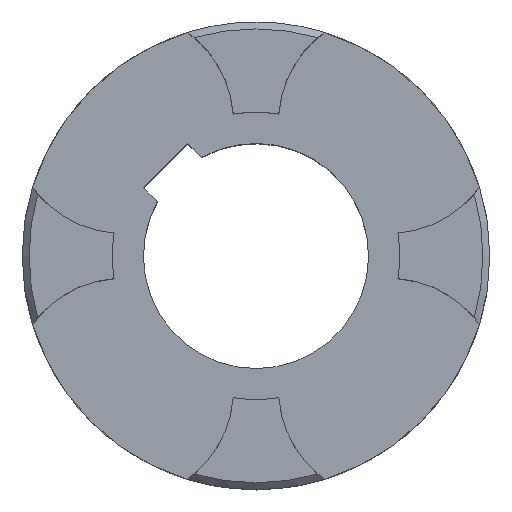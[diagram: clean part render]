
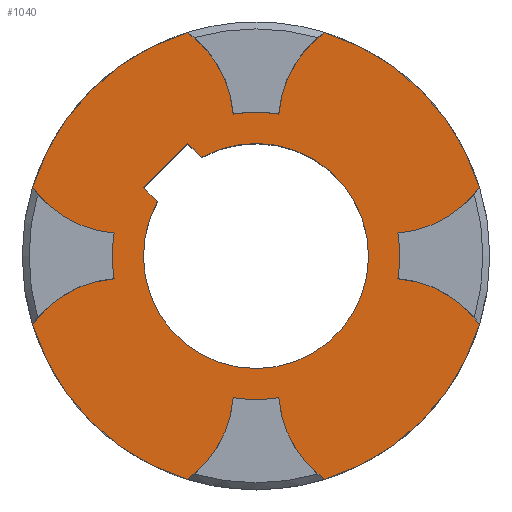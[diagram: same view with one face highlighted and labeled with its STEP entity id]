
A CAD part, top view. The second image highlights one B-rep face of the part: STEP entity #1040.
In plain terms, the highlighted planar face has unit normal (0, 0, 1).
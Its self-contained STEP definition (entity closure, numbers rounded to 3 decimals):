
#213=CARTESIAN_POINT('',(0.,0.,0.));
#214=DIRECTION('',(0.,0.,1.));
#215=DIRECTION('',(-0.987,0.159,0.));
#216=AXIS2_PLACEMENT_3D('',#213,#214,#215);
#248=CARTESIAN_POINT('',(0.,0.,0.));
#249=DIRECTION('',(0.,0.,1.));
#250=DIRECTION('',(0.987,-0.159,0.));
#251=AXIS2_PLACEMENT_3D('',#248,#249,#250);
#275=CARTESIAN_POINT('',(38.537,38.537,0.));
#276=DIRECTION('',(0.,0.,-1.));
#277=DIRECTION('',(0.811,-0.585,0.));
#278=AXIS2_PLACEMENT_3D('',#275,#276,#277);
#280=CARTESIAN_POINT('',(38.537,-38.537,0.));
#281=DIRECTION('',(0.,0.,-1.));
#282=DIRECTION('',(0.076,0.997,0.));
#283=AXIS2_PLACEMENT_3D('',#280,#281,#282);
#285=CARTESIAN_POINT('',(0.,0.,0.));
#286=DIRECTION('',(0.,0.,-1.));
#287=DIRECTION('',(0.956,-0.293,0.));
#288=AXIS2_PLACEMENT_3D('',#285,#286,#287);
#290=CARTESIAN_POINT('',(38.537,-38.537,0.));
#291=DIRECTION('',(0.,0.,-1.));
#292=DIRECTION('',(-0.585,-0.811,0.));
#293=AXIS2_PLACEMENT_3D('',#290,#291,#292);
#295=CARTESIAN_POINT('',(0.,0.,0.));
#296=DIRECTION('',(0.,0.,-1.));
#297=DIRECTION('',(0.159,-0.987,0.));
#298=AXIS2_PLACEMENT_3D('',#295,#296,#297);
#300=CARTESIAN_POINT('',(-38.537,-38.537,0.));
#301=DIRECTION('',(0.,0.,-1.));
#302=DIRECTION('',(0.997,-0.076,0.));
#303=AXIS2_PLACEMENT_3D('',#300,#301,#302);
#305=CARTESIAN_POINT('',(0.,0.,0.));
#306=DIRECTION('',(0.,0.,-1.));
#307=DIRECTION('',(-0.293,-0.956,0.));
#308=AXIS2_PLACEMENT_3D('',#305,#306,#307);
#310=CARTESIAN_POINT('',(-38.537,-38.537,0.));
#311=DIRECTION('',(0.,0.,-1.));
#312=DIRECTION('',(-0.811,0.585,0.));
#313=AXIS2_PLACEMENT_3D('',#310,#311,#312);
#315=CARTESIAN_POINT('',(-38.537,38.537,0.));
#316=DIRECTION('',(0.,0.,-1.));
#317=DIRECTION('',(-0.076,-0.997,0.));
#318=AXIS2_PLACEMENT_3D('',#315,#316,#317);
#320=CARTESIAN_POINT('',(0.,0.,0.));
#321=DIRECTION('',(0.,0.,-1.));
#322=DIRECTION('',(-0.956,0.293,0.));
#323=AXIS2_PLACEMENT_3D('',#320,#321,#322);
#325=CARTESIAN_POINT('',(-38.537,38.537,0.));
#326=DIRECTION('',(0.,0.,-1.));
#327=DIRECTION('',(0.585,0.811,0.));
#328=AXIS2_PLACEMENT_3D('',#325,#326,#327);
#330=CARTESIAN_POINT('',(0.,0.,0.));
#331=DIRECTION('',(0.,0.,-1.));
#332=DIRECTION('',(-0.159,0.987,0.));
#333=AXIS2_PLACEMENT_3D('',#330,#331,#332);
#335=CARTESIAN_POINT('',(38.537,38.537,0.));
#336=DIRECTION('',(0.,0.,-1.));
#337=DIRECTION('',(-0.997,0.076,0.));
#338=AXIS2_PLACEMENT_3D('',#335,#336,#337);
#340=CARTESIAN_POINT('',(0.,0.,0.));
#341=DIRECTION('',(0.,0.,-1.));
#342=DIRECTION('',(0.293,0.956,0.));
#343=AXIS2_PLACEMENT_3D('',#340,#341,#342);
#345=DIRECTION('',(-0.707,0.707,0.));
#346=VECTOR('',#345,5.671);
#347=CARTESIAN_POINT('',(-28.446,15.718,0.));
#348=LINE('',#347,#346);
#349=DIRECTION('',(0.707,-0.707,0.));
#350=VECTOR('',#349,5.671);
#351=CARTESIAN_POINT('',(-19.728,32.456,0.));
#352=LINE('',#351,#350);
#353=DIRECTION('',(0.707,0.707,0.));
#354=VECTOR('',#353,18.);
#355=CARTESIAN_POINT('',(-32.456,19.728,0.));
#356=LINE('',#355,#354);
#424=CARTESIAN_POINT('',(0.,0.,0.));
#425=DIRECTION('',(0.,0.,-1.));
#426=DIRECTION('',(-0.484,0.875,0.));
#427=AXIS2_PLACEMENT_3D('',#424,#425,#426);
#556=CARTESIAN_POINT('',(64.533,19.791,0.));
#558=VERTEX_POINT('',#556);
#560=CARTESIAN_POINT('',(19.791,64.533,0.));
#562=VERTEX_POINT('',#560);
#572=CARTESIAN_POINT('',(19.791,-64.533,0.));
#574=VERTEX_POINT('',#572);
#576=CARTESIAN_POINT('',(64.533,-19.791,0.));
#578=VERTEX_POINT('',#576);
#596=CARTESIAN_POINT('',(-64.533,-19.791,0.));
#598=VERTEX_POINT('',#596);
#600=CARTESIAN_POINT('',(-19.791,-64.533,0.));
#602=VERTEX_POINT('',#600);
#612=CARTESIAN_POINT('',(-19.791,64.533,0.));
#614=VERTEX_POINT('',#612);
#616=CARTESIAN_POINT('',(-64.533,19.791,0.));
#618=VERTEX_POINT('',#616);
#635=CARTESIAN_POINT('',(-6.581,40.975,0.));
#636=CARTESIAN_POINT('',(6.581,40.975,0.));
#637=VERTEX_POINT('',#635);
#638=VERTEX_POINT('',#636);
#639=CARTESIAN_POINT('',(6.581,-40.975,0.));
#640=CARTESIAN_POINT('',(-6.581,-40.975,0.));
#641=VERTEX_POINT('',#639);
#642=VERTEX_POINT('',#640);
#643=CARTESIAN_POINT('',(-40.975,6.581,0.));
#644=CARTESIAN_POINT('',(-40.975,-6.581,0.));
#645=VERTEX_POINT('',#643);
#646=VERTEX_POINT('',#644);
#647=CARTESIAN_POINT('',(40.975,-6.581,0.));
#648=CARTESIAN_POINT('',(40.975,6.581,0.));
#649=VERTEX_POINT('',#647);
#650=VERTEX_POINT('',#648);
#671=CARTESIAN_POINT('',(-28.446,15.718,0.));
#672=CARTESIAN_POINT('',(-32.456,19.728,0.));
#673=VERTEX_POINT('',#671);
#674=VERTEX_POINT('',#672);
#675=CARTESIAN_POINT('',(-19.728,32.456,0.));
#676=VERTEX_POINT('',#675);
#677=CARTESIAN_POINT('',(-15.718,28.446,0.));
#678=VERTEX_POINT('',#677);
#1000=CARTESIAN_POINT('',(0.,0.,0.));
#1001=DIRECTION('',(0.,0.,-1.));
#1002=DIRECTION('',(0.,-1.,0.));
#1003=AXIS2_PLACEMENT_3D('',#1000,#1001,#1002);
#1004=PLANE('',#1003);
#1006=ORIENTED_EDGE('',*,*,#1005,.T.);
#1007=ORIENTED_EDGE('',*,*,#975,.F.);
#1008=ORIENTED_EDGE('',*,*,#932,.T.);
#1009=ORIENTED_EDGE('',*,*,#829,.T.);
#1011=ORIENTED_EDGE('',*,*,#1010,.T.);
#1012=ORIENTED_EDGE('',*,*,#991,.T.);
#1014=ORIENTED_EDGE('',*,*,#1013,.T.);
#1015=ORIENTED_EDGE('',*,*,#732,.T.);
#1017=ORIENTED_EDGE('',*,*,#1016,.T.);
#1018=ORIENTED_EDGE('',*,*,#942,.F.);
#1020=ORIENTED_EDGE('',*,*,#1019,.T.);
#1021=ORIENTED_EDGE('',*,*,#724,.T.);
#1023=ORIENTED_EDGE('',*,*,#1022,.T.);
#1024=ORIENTED_EDGE('',*,*,#960,.T.);
#1026=ORIENTED_EDGE('',*,*,#1025,.T.);
#1027=ORIENTED_EDGE('',*,*,#837,.T.);
#1028=EDGE_LOOP('',(#1006,#1007,#1008,#1009,#1011,#1012,#1014,#1015,#1017,#1018,
#1020,#1021,#1023,#1024,#1026,#1027));
#1029=FACE_OUTER_BOUND('',#1028,.F.);
#1031=ORIENTED_EDGE('',*,*,#1030,.F.);
#1033=ORIENTED_EDGE('',*,*,#1032,.F.);
#1035=ORIENTED_EDGE('',*,*,#1034,.F.);
#1037=ORIENTED_EDGE('',*,*,#1036,.F.);
#1038=EDGE_LOOP('',(#1031,#1033,#1035,#1037));
#1039=FACE_BOUND('',#1038,.F.);
#1040=ADVANCED_FACE('',(#1029,#1039),#1004,.F.);
#217=CIRCLE('',#216,41.5);
#252=CIRCLE('',#251,41.5);
#279=CIRCLE('',#278,32.05);
#284=CIRCLE('',#283,32.05);
#289=CIRCLE('',#288,67.5);
#294=CIRCLE('',#293,32.05);
#299=CIRCLE('',#298,41.5);
#304=CIRCLE('',#303,32.05);
#309=CIRCLE('',#308,67.5);
#314=CIRCLE('',#313,32.05);
#319=CIRCLE('',#318,32.05);
#324=CIRCLE('',#323,67.5);
#329=CIRCLE('',#328,32.05);
#334=CIRCLE('',#333,41.5);
#339=CIRCLE('',#338,32.05);
#344=CIRCLE('',#343,67.5);
#428=CIRCLE('',#427,32.5);
#724=EDGE_CURVE('',#618,#614,#324,.T.);
#732=EDGE_CURVE('',#602,#598,#309,.T.);
#829=EDGE_CURVE('',#578,#574,#289,.T.);
#837=EDGE_CURVE('',#562,#558,#344,.T.);
#932=EDGE_CURVE('',#649,#578,#284,.T.);
#942=EDGE_CURVE('',#645,#646,#217,.T.);
#960=EDGE_CURVE('',#637,#638,#334,.T.);
#975=EDGE_CURVE('',#649,#650,#252,.T.);
#991=EDGE_CURVE('',#641,#642,#299,.T.);
#1005=EDGE_CURVE('',#558,#650,#279,.T.);
#1010=EDGE_CURVE('',#574,#641,#294,.T.);
#1013=EDGE_CURVE('',#642,#602,#304,.T.);
#1016=EDGE_CURVE('',#598,#646,#314,.T.);
#1019=EDGE_CURVE('',#645,#618,#319,.T.);
#1022=EDGE_CURVE('',#614,#637,#329,.T.);
#1025=EDGE_CURVE('',#638,#562,#339,.T.);
#1030=EDGE_CURVE('',#673,#674,#348,.T.);
#1032=EDGE_CURVE('',#678,#673,#428,.T.);
#1034=EDGE_CURVE('',#676,#678,#352,.T.);
#1036=EDGE_CURVE('',#674,#676,#356,.T.);
